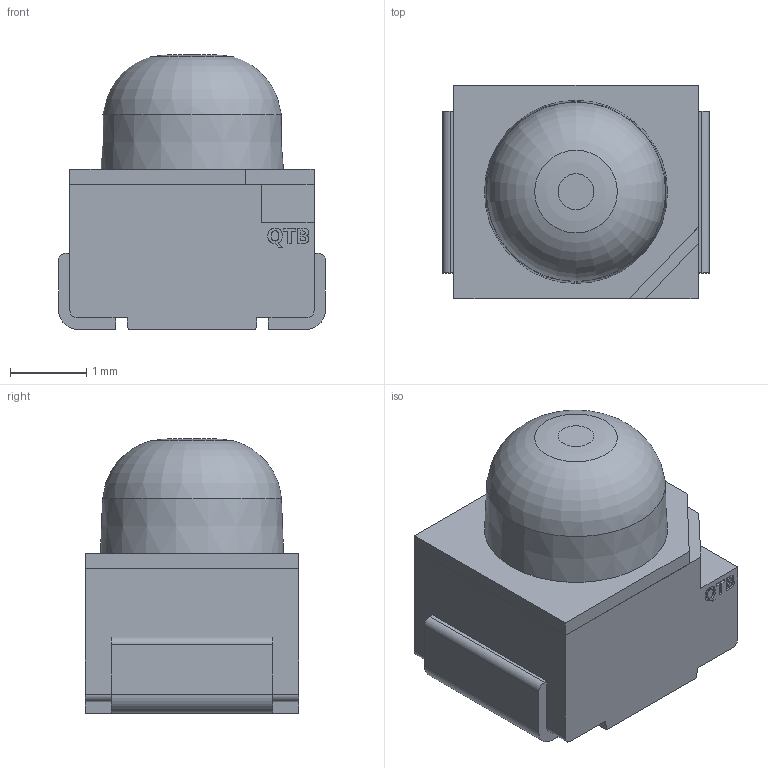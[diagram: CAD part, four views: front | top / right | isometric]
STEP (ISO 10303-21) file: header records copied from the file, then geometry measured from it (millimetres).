
FILE_DESCRIPTION(/* description */ (''),/* implementation_level */ '2;1');
FILE_NAME(/* name */ '5fab111c1c17e90e8914f9d5',/* time_stamp */ '2020-11-10T22:15:56+00:00',/* author */ (''),/* organization */ (''),/* preprocessor_version */ 'ST-DEVELOPER v16.7',/* originating_system */ $,/* authorisation */ $);
FILE_SCHEMA (('AUTOMOTIVE_DESIGN {1 0 10303 214 3 1 1}'));
Length unit declared in the file: metre
Products named in the file (5): QBLP670D; Part 4; Part 2; Part 3; Part 1
Assembly tree (4 placements, depth 2):
  QBLP670D
    Part 4
    Part 2
    Part 3
    Part 1
Bounding box: 3.5 x 2.8 x 3.6 mm (x, y, z)
Volume: 24.5 mm3; surface area: 119.3 mm2
Topology: 4 solids, 4 shells, 111 faces, 283 edges, 188 vertices
Faces by surface type: plane 69, bspline 29, cylinder 10, torus 2, cone 1
Full cylindrical faces by diameter (mm): 0.5 x1, 1 x1
Entity records: 3530 total; most frequent: CARTESIAN_POINT 901, ORIENTED_EDGE 556, DIRECTION 418, EDGE_CURVE 278, LINE 196, VECTOR 196, VERTEX_POINT 188, EDGE_LOOP 126
